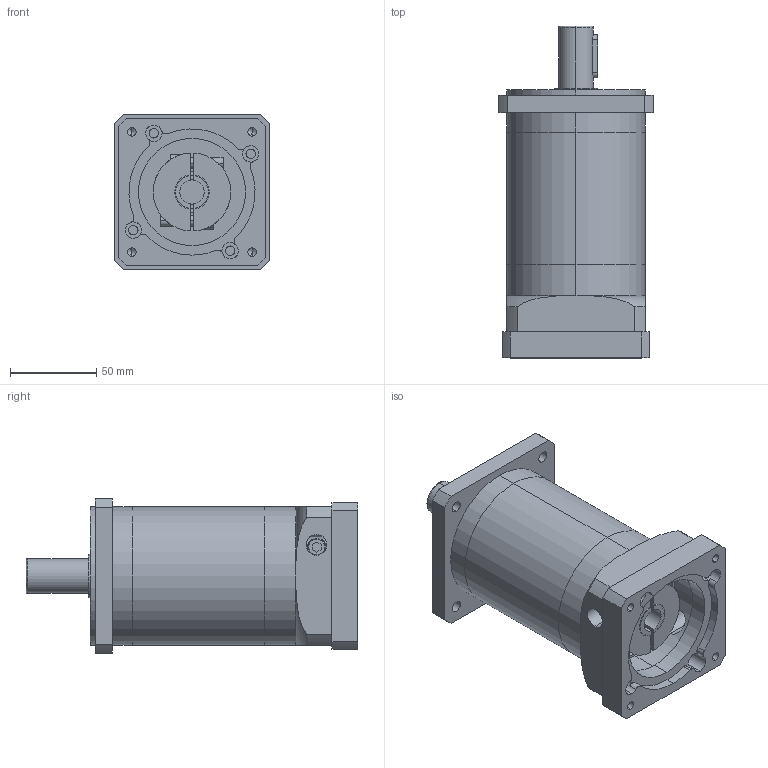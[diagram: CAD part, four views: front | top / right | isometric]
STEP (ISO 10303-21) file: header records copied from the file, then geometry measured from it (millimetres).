
FILE_DESCRIPTION (( 'STEP AP203' ), '1' );
FILE_NAME ('WPF080新-L2外形图(14-48.5-73-方69.6-M6)连接板.STEP', '2019-06-17T06:07:58', ( 'Windows' ), ( 'Microsoft' ), 'SwSTEP 2.0', 'SolidWorks 2016', '' );
FILE_SCHEMA (( 'CONFIG_CONTROL_DESIGN' ));
Length unit declared in the file: millimetre
Products named in the file (1): WPF080新-L2外形图(14-48.5-73-方69.6-M6)连接板
Bounding box: 90 x 192 x 90 mm (x, y, z)
Volume: 768205.4 mm3; surface area: 107756.9 mm2
Topology: 4 solids, 4 shells, 241 faces, 611 edges, 385 vertices
Faces by surface type: cylinder 125, plane 84, cone 22, torus 10
Entity records: 7960 total; most frequent: CARTESIAN_POINT 1900, DIRECTION 1347, ORIENTED_EDGE 1186, EDGE_CURVE 593, AXIS2_PLACEMENT_3D 536, VERTEX_POINT 385, CIRCLE 294, EDGE_LOOP 288
